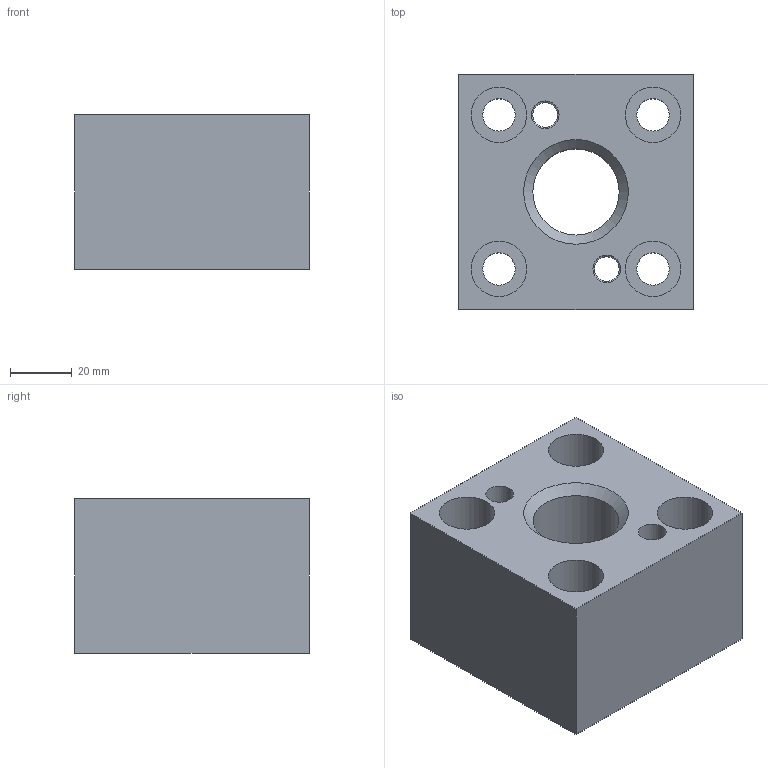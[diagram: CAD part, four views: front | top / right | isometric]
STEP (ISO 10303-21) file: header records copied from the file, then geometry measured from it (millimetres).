
FILE_DESCRIPTION(/* description */ ('LOCKOUT RECEIVER'),/* implementation_level */ '2;1');
FILE_NAME(/* name */ 'D:\5-MISC CAD FILES\BP2_RECEIVERS\BP2NE92.stp',/* time_stamp */ '2020-03-19T13:03:34-04:00',/* author */ ('CMcWilliams'),/* organization */ (''),/* preprocessor_version */ 'ST-DEVELOPER v18',/* originating_system */ 'Autodesk Inventor 2020',/* authorisation */ '');
FILE_SCHEMA (('AUTOMOTIVE_DESIGN { 1 0 10303 214 3 1 1 }'));
Length unit declared in the file: millimetre
Products named in the file (1): BP2NE92
Bounding box: 76.2 x 76.2 x 50 mm (x, y, z)
Volume: 226559.4 mm3; surface area: 39590.9 mm2
Topology: 1 solids, 1 shells, 26 faces, 68 edges, 48 vertices
Faces by surface type: cylinder 13, plane 10, cone 3
Full cylindrical faces by diameter (mm): 8 x2, 9 x2, 10.5 x4, 18 x4, 28 x1
Entity records: 905 total; most frequent: DIRECTION 162, CARTESIAN_POINT 143, ORIENTED_EDGE 136, EDGE_CURVE 68, AXIS2_PLACEMENT_3D 67, VERTEX_POINT 48, EDGE_LOOP 44, CIRCLE 40
